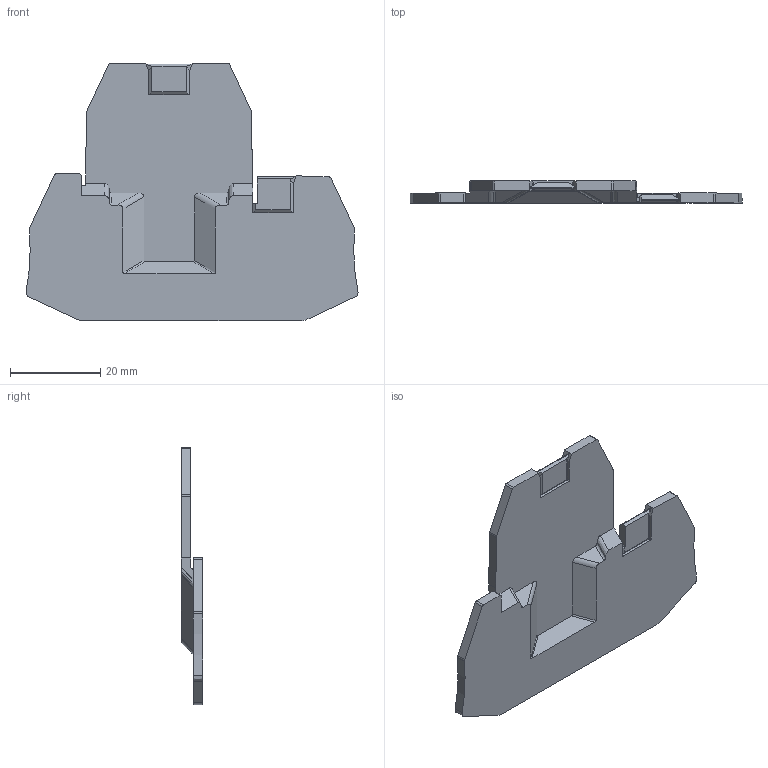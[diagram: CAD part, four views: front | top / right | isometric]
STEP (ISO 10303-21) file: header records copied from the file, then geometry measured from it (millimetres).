
FILE_DESCRIPTION( ('This file contains a STEP AP42 implementation' ,'as created by ZW3D STEP Interface translator.') ,'2;1' );
FILE_NAME( 'D-RUTTB4.stp' ,'23 613.1520 5', (''), ('ZWCAD Software Co.'), 'Version 1.0', 'ZW3D to STEP translator', '' );
FILE_SCHEMA(('AUTOMOTIVE_DESIGN { 1 0 10303 214 1 1 1 1 }'));
Length unit declared in the file: millimetre
Products named in the file (2): 0; RUTTB4_錨璃45
Bounding box: 73.48 x 4.85 x 57 mm (x, y, z)
Volume: 6379.5 mm3; surface area: 6837.3 mm2
Topology: 1 solids, 1 shells, 128 faces, 371 edges, 245 vertices
Faces by surface type: plane 82, cylinder 32, bspline 14
Entity records: 4481 total; most frequent: CARTESIAN_POINT 1127, ORIENTED_EDGE 742, DIRECTION 576, EDGE_CURVE 371, VECTOR 254, LINE 254, VERTEX_POINT 245, AXIS2_PLACEMENT_3D 161
